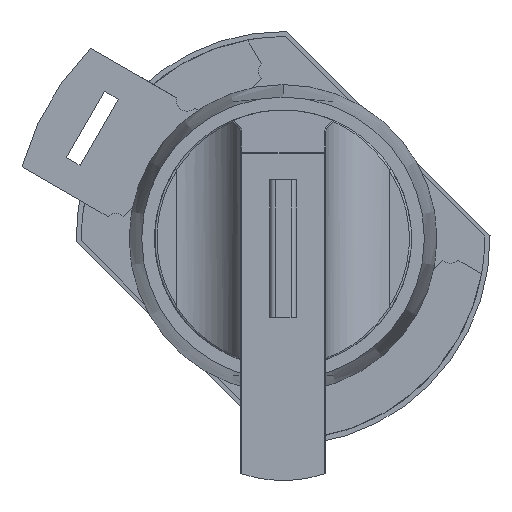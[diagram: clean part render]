
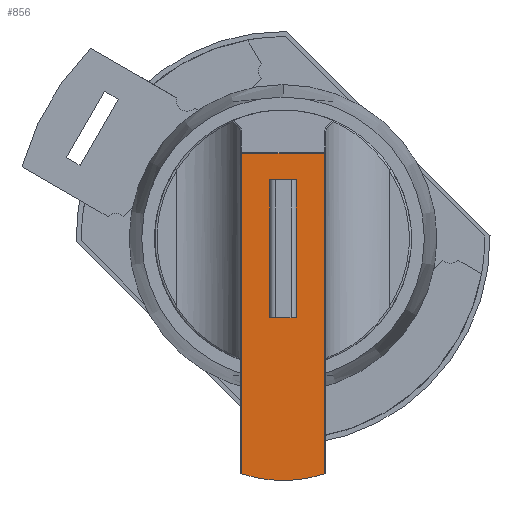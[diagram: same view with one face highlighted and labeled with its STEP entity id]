
A CAD part, left-side view. The second image highlights one B-rep face of the part: STEP entity #856.
In plain terms, the highlighted planar face has unit normal (-1, 0, 0).
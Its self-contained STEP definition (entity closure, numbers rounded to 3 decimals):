
#370 = ORIENTED_EDGE ( 'NONE', *, *, #447, .F. ) ;
#447 = EDGE_CURVE ( 'NONE', #10310, #7173, #3321, .T. ) ;
#453 = EDGE_LOOP ( 'NONE', ( #589, #1979, #370, #4793, #1560 ) ) ;
#589 = ORIENTED_EDGE ( 'NONE', *, *, #1861, .F. ) ;
#642 = ORIENTED_EDGE ( 'NONE', *, *, #1549, .T. ) ;
#754 = ORIENTED_EDGE ( 'NONE', *, *, #9420, .T. ) ;
#856 = ADVANCED_FACE ( 'NONE', ( #4551, #4552 ), #4553, .T. ) ;
#992 = VERTEX_POINT ( 'NONE', #4805 ) ;
#1367 = VERTEX_POINT ( 'NONE', #5589 ) ;
#1549 = EDGE_CURVE ( 'NONE', #10250, #1612, #6038, .T. ) ;
#1560 = ORIENTED_EDGE ( 'NONE', *, *, #1623, .F. ) ;
#1612 = VERTEX_POINT ( 'NONE', #6279 ) ;
#1623 = EDGE_CURVE ( 'NONE', #992, #1367, #6316, .T. ) ;
#1861 = EDGE_CURVE ( 'NONE', #1903, #992, #7427, .T. ) ;
#1903 = VERTEX_POINT ( 'NONE', #7548 ) ;
#1979 = ORIENTED_EDGE ( 'NONE', *, *, #6941, .F. ) ;
#2241 = EDGE_CURVE ( 'NONE', #2337, #12223, #8904, .T. ) ;
#2337 = VERTEX_POINT ( 'NONE', #9594 ) ;
#3321 = CIRCLE ( 'NONE', #3322, 12.5 ) ;
#3322 = AXIS2_PLACEMENT_3D ( 'NONE', #3329, #3330, #3331 ) ;
#3329 = CARTESIAN_POINT ( 'NONE',  ( -16., 0., -10.3 ) ) ;
#3330 = DIRECTION ( 'NONE',  ( 1., 0., 0. ) ) ;
#3331 = DIRECTION ( 'NONE',  ( 0., 0., -1. ) ) ;
#4551 = FACE_BOUND ( 'NONE', #5342, .T. ) ;
#4552 = FACE_OUTER_BOUND ( 'NONE', #453, .T. ) ;
#4553 = PLANE ( 'NONE',  #4554 ) ;
#4554 = AXIS2_PLACEMENT_3D ( 'NONE', #4555, #4556, #4557 ) ;
#4555 = CARTESIAN_POINT ( 'NONE',  ( -16., 0., 8.1 ) ) ;
#4556 = DIRECTION ( 'NONE',  ( -1., 0., 0. ) ) ;
#4557 = DIRECTION ( 'NONE',  ( 0., 0., 1. ) ) ;
#4793 = ORIENTED_EDGE ( 'NONE', *, *, #5951, .F. ) ;
#4805 = CARTESIAN_POINT ( 'NONE',  ( -16., -3.9, 8.028 ) ) ;
#5342 = EDGE_LOOP ( 'NONE', ( #642, #754, #10290, #10755 ) ) ;
#5589 = CARTESIAN_POINT ( 'NONE',  ( -16., -3.9, -22.176 ) ) ;
#5951 = EDGE_CURVE ( 'NONE', #1367, #10310, #11756, .T. ) ;
#6038 = LINE ( 'NONE', #6039, #6040 ) ;
#6039 = CARTESIAN_POINT ( 'NONE',  ( -16., 0., -7.472 ) ) ;
#6040 = VECTOR ( 'NONE', #6041, 1000. ) ;
#6041 = DIRECTION ( 'NONE',  ( 0., 1., 0. ) ) ;
#6279 = CARTESIAN_POINT ( 'NONE',  ( -16., 1.25, -7.472 ) ) ;
#6316 = LINE ( 'NONE', #6317, #6318 ) ;
#6317 = CARTESIAN_POINT ( 'NONE',  ( -16., -3.9, 0.484 ) ) ;
#6318 = VECTOR ( 'NONE', #6319, 1000. ) ;
#6319 = DIRECTION ( 'NONE',  ( 0., 0., -1. ) ) ;
#6711 = LINE ( 'NONE', #6712, #6718 ) ;
#6712 = CARTESIAN_POINT ( 'NONE',  ( -16., 1.25, 8.1 ) ) ;
#6718 = VECTOR ( 'NONE', #6719, 1000. ) ;
#6719 = DIRECTION ( 'NONE',  ( 0., 0., 1. ) ) ;
#6941 = EDGE_CURVE ( 'NONE', #7173, #1903, #12038, .T. ) ;
#7173 = VERTEX_POINT ( 'NONE', #12121 ) ;
#7342 = LINE ( 'NONE', #7343, #7344 ) ;
#7343 = CARTESIAN_POINT ( 'NONE',  ( -16., -1.25, 8.1 ) ) ;
#7344 = VECTOR ( 'NONE', #7345, 1000. ) ;
#7345 = DIRECTION ( 'NONE',  ( 0., 0., -1. ) ) ;
#7427 = LINE ( 'NONE', #7428, #7429 ) ;
#7428 = CARTESIAN_POINT ( 'NONE',  ( -16., 0., 8.028 ) ) ;
#7429 = VECTOR ( 'NONE', #7430, 1000. ) ;
#7430 = DIRECTION ( 'NONE',  ( 0., -1., 0. ) ) ;
#7482 = CARTESIAN_POINT ( 'NONE',  ( -16., -1.25, -7.472 ) ) ;
#7548 = CARTESIAN_POINT ( 'NONE',  ( -16., 3.9, 8.028 ) ) ;
#7557 = CARTESIAN_POINT ( 'NONE',  ( -16., 0., -22.8 ) ) ;
#8904 = LINE ( 'NONE', #8905, #8912 ) ;
#8905 = CARTESIAN_POINT ( 'NONE',  ( -16., 0., 5.528 ) ) ;
#8912 = VECTOR ( 'NONE', #8913, 1000. ) ;
#8913 = DIRECTION ( 'NONE',  ( 0., -1., 0. ) ) ;
#9420 = EDGE_CURVE ( 'NONE', #1612, #2337, #6711, .T. ) ;
#9594 = CARTESIAN_POINT ( 'NONE',  ( -16., 1.25, 5.528 ) ) ;
#9613 = CARTESIAN_POINT ( 'NONE',  ( -16., -1.25, 5.528 ) ) ;
#10054 = EDGE_CURVE ( 'NONE', #12223, #10250, #7342, .T. ) ;
#10250 = VERTEX_POINT ( 'NONE', #7482 ) ;
#10290 = ORIENTED_EDGE ( 'NONE', *, *, #2241, .T. ) ;
#10310 = VERTEX_POINT ( 'NONE', #7557 ) ;
#10755 = ORIENTED_EDGE ( 'NONE', *, *, #10054, .T. ) ;
#11756 = CIRCLE ( 'NONE', #11757, 12.5 ) ;
#11757 = AXIS2_PLACEMENT_3D ( 'NONE', #11758, #11759, #11760 ) ;
#11758 = CARTESIAN_POINT ( 'NONE',  ( -16., 0., -10.3 ) ) ;
#11759 = DIRECTION ( 'NONE',  ( 1., 0., 0. ) ) ;
#11760 = DIRECTION ( 'NONE',  ( 0., 0., -1. ) ) ;
#12038 = LINE ( 'NONE', #12039, #12040 ) ;
#12039 = CARTESIAN_POINT ( 'NONE',  ( -16., 3.9, 0.484 ) ) ;
#12040 = VECTOR ( 'NONE', #12041, 1000. ) ;
#12041 = DIRECTION ( 'NONE',  ( 0., 0., 1. ) ) ;
#12121 = CARTESIAN_POINT ( 'NONE',  ( -16., 3.9, -22.176 ) ) ;
#12223 = VERTEX_POINT ( 'NONE', #9613 ) ;
